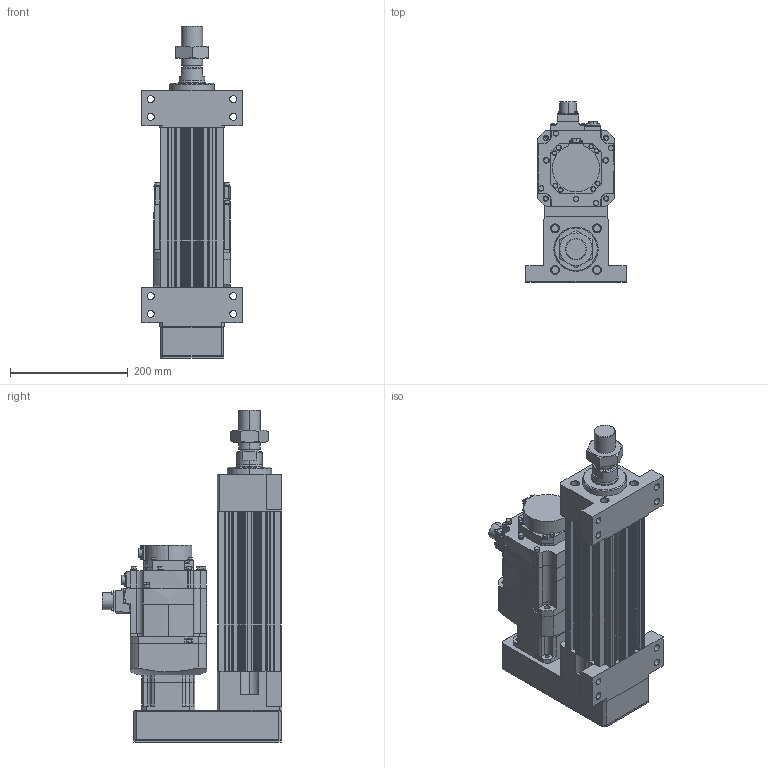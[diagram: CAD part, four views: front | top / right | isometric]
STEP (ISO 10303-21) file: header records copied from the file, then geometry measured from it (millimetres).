
FILE_DESCRIPTION (( 'STEP AP203' ), '1' );
FILE_NAME ('HES110NS(HS)-P100-W010G00-M-FFB.STEP', '2026-06-10T05:51:29', ( 'tms' ), ( '' ), 'SwSTEP 2.0', 'SolidWorks 2013', '' );
FILE_SCHEMA (( 'CONFIG_CONTROL_DESIGN' ));
Length unit declared in the file: millimetre
Products named in the file (8): AB0901; HES110NS(HS)-P100-W010G00-M-FFB; HG-SR102B; M36X1.5P; HES110-M-ROD-100; HES110-P-G90; HES110-FFB-100; AB0902
Assembly tree (7 placements, depth 2):
  HES110NS(HS)-P100-W010G00-M-FFB
    HES110-FFB-100
    HES110-M-ROD-100
    M36X1.5P
    HES110-P-G90
    AB0901
    AB0902
    HG-SR102B
Bounding box: 170 x 304.99 x 563 mm (x, y, z)
Volume: 6522774 mm3; surface area: 789510.8 mm2
Topology: 5 solids, 12 shells, 1157 faces, 2938 edges, 1909 vertices
Faces by surface type: cylinder 550, plane 517, cone 76, bspline 10, torus 4
Entity records: 37070 total; most frequent: CARTESIAN_POINT 7324, DIRECTION 6373, ORIENTED_EDGE 5832, EDGE_CURVE 2926, AXIS2_PLACEMENT_3D 2382, VERTEX_POINT 1909, VECTOR 1609, LINE 1609
